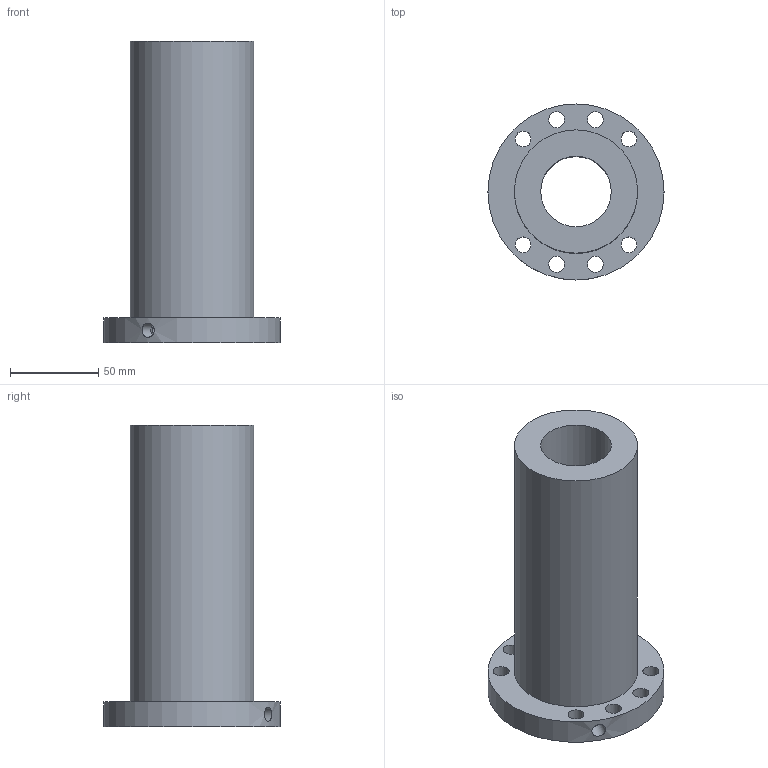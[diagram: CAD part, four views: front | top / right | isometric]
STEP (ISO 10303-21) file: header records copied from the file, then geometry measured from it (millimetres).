
FILE_DESCRIPTION(/* description */ (''),/* implementation_level */ '2;1');
FILE_NAME(/* name */ '40-10K5_635',/* time_stamp */ '2007-10-15T12:53:58+08:00',/* author */ (''),/* organization */ (''),/* preprocessor_version */ 'ST-DEVELOPER v11',/* originating_system */ 'UGS - NX 5.0',/* authorisation */ '');
FILE_SCHEMA (('CONFIG_CONTROL_DESIGN'));
Length unit declared in the file: millimetre
Products named in the file (1): 40-10K5_635
Bounding box: 100 x 100 x 171 mm (x, y, z)
Volume: 491085.2 mm3; surface area: 76328.2 mm2
Topology: 1 solids, 1 shells, 17 faces, 40 edges, 27 vertices
Faces by surface type: cylinder 13, plane 4
Full cylindrical faces by diameter (mm): 6 x1, 8 x1, 9 x8, 40 x1, 70 x1, 100 x1
Entity records: 668 total; most frequent: CARTESIAN_POINT 184, DIRECTION 84, FACE_BOUND 52, EDGE_LOOP 52, ORIENTED_EDGE 52, AXIS2_PLACEMENT_3D 42, VERTEX_POINT 26, EDGE_CURVE 26
